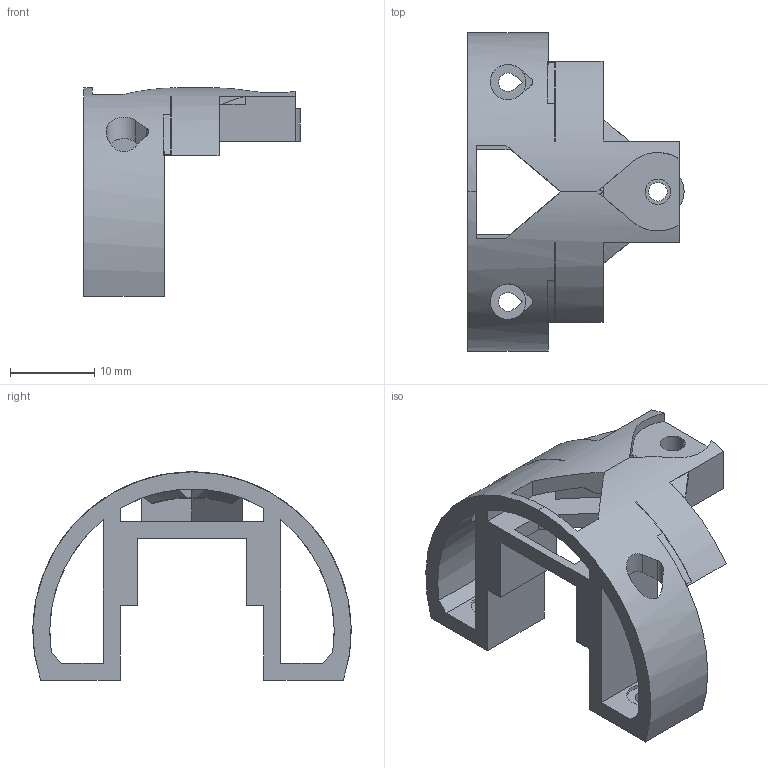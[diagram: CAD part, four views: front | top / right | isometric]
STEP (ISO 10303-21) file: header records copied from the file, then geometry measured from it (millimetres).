
FILE_DESCRIPTION(('SkyG Speed 90B - revision C6B-22 - 2026-10-16','HL1-hatch-lip-front'),'2;1');
FILE_NAME('HL1-hatch-lip-front_C6B-22','2026-10-16T19:15:21',('Author'),( 'Open CASCADE'),'Open CASCADE STEP processor 7.9','Open CASCADE 7.9' ,'Unknown');
FILE_SCHEMA(('AUTOMOTIVE_DESIGN { 1 0 10303 214 1 1 1 1 }'));
Length unit declared in the file: millimetre
Products named in the file (5): HL1-hatch-lip-front C6B-22; Open CASCADE STEP translator 7.9 25.1; Open CASCADE STEP translator 7.9 25.1.1; Open CASCADE STEP translator 7.9 25.1.2; Open CASCADE STEP translator 7.9 25.1.3
Assembly tree (4 placements, depth 3):
  HL1-hatch-lip-front C6B-22
    Open CASCADE STEP translator 7.9 25.1
      Open CASCADE STEP translator 7.9 25.1.1
      Open CASCADE STEP translator 7.9 25.1.2
      Open CASCADE STEP translator 7.9 25.1.3
Bounding box: 25.6 x 37.7 x 24.65 mm (x, y, z)
Volume: 3942.3 mm3; surface area: 4122.8 mm2
Topology: 1 solids, 3 shells, 101 faces, 321 edges, 220 vertices
Faces by surface type: plane 66, cylinder 33, cone 2
Full cylindrical faces by diameter (mm): 2.2 x1, 3 x1, 4.2 x2
Entity records: 9706 total; most frequent: CARTESIAN_POINT 3664, DIRECTION 1046, ORIENTED_EDGE 620, PCURVE 618, DEFINITIONAL_REPRESENTATION 618, LINE 553, VECTOR 553, EDGE_CURVE 321
